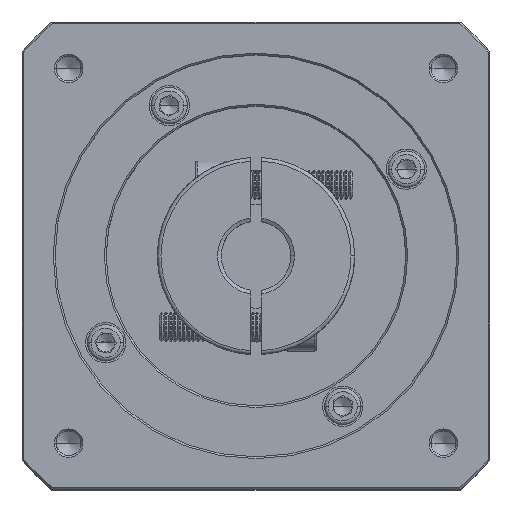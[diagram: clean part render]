
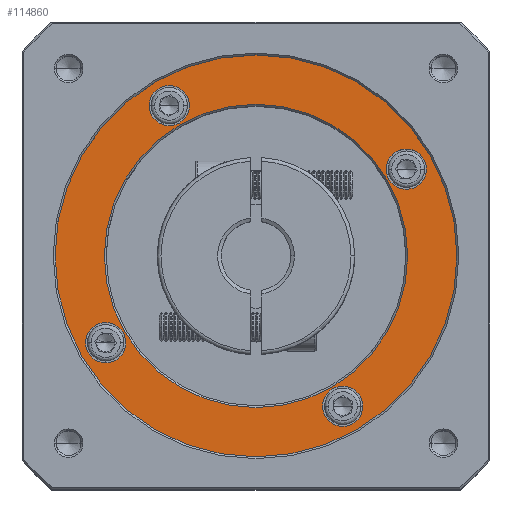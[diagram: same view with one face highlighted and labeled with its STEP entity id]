
A CAD part, top view. The second image highlights one B-rep face of the part: STEP entity #114860.
In plain terms, the highlighted planar face has unit normal (0, 0, 1).
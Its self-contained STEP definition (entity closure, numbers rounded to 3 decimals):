
#31 = DIRECTION ( 'NONE',  ( 1., 0., 0. ) ) ;
#1255 = DIRECTION ( 'NONE',  ( 1., 0., 0. ) ) ;
#1880 = DIRECTION ( 'NONE',  ( 0., 0., -1. ) ) ;
#1895 = CARTESIAN_POINT ( 'NONE',  ( 16.041, 119.998, 75.911 ) ) ;
#2095 = CARTESIAN_POINT ( 'NONE',  ( 80.927, 102.612, 75.911 ) ) ;
#3564 = AXIS2_PLACEMENT_3D ( 'NONE', #58340, #1880, #67802 ) ;
#4405 = ORIENTED_EDGE ( 'NONE', *, *, #41038, .T. ) ;
#8453 = DIRECTION ( 'NONE',  ( 1., 0., 0. ) ) ;
#8965 = DIRECTION ( 'NONE',  ( 0., -1., 0. ) ) ;
#9934 = EDGE_CURVE ( 'NONE', #119432, #26576, #87533, .T. ) ;
#10255 = CIRCLE ( 'NONE', #106787, 55. ) ;
#11267 = ORIENTED_EDGE ( 'NONE', *, *, #98155, .T. ) ;
#13526 = CARTESIAN_POINT ( 'NONE',  ( 62.677, 143.748, 75.911 ) ) ;
#13629 = EDGE_CURVE ( 'NONE', #74848, #62949, #53834, .T. ) ;
#14733 = DIRECTION ( 'NONE',  ( 0., 0., -1. ) ) ;
#18857 = AXIS2_PLACEMENT_3D ( 'NONE', #90424, #34009, #99886 ) ;
#21841 = EDGE_LOOP ( 'NONE', ( #4405, #82962 ) ) ;
#22440 = CARTESIAN_POINT ( 'NONE',  ( 103.813, 167.498, 75.911 ) ) ;
#22703 = CARTESIAN_POINT ( 'NONE',  ( 98.313, 167.498, 75.911 ) ) ;
#22954 = DIRECTION ( 'NONE',  ( 1., 0., 0. ) ) ;
#24617 = CARTESIAN_POINT ( 'NONE',  ( 62.677, 185.248, 75.911 ) ) ;
#24734 = CIRCLE ( 'NONE', #104761, 5.5 ) ;
#25134 = AXIS2_PLACEMENT_3D ( 'NONE', #71164, #14733, #80615 ) ;
#25703 = AXIS2_PLACEMENT_3D ( 'NONE', #103266, #46949, #112754 ) ;
#25887 = CARTESIAN_POINT ( 'NONE',  ( 7.677, 143.748, 75.911 ) ) ;
#26576 = VERTEX_POINT ( 'NONE', #47800 ) ;
#27645 = CARTESIAN_POINT ( 'NONE',  ( 38.927, 184.884, 75.911 ) ) ;
#28175 = AXIS2_PLACEMENT_3D ( 'NONE', #22440, #88299, #31890 ) ;
#28869 = FACE_BOUND ( 'NONE', #93594, .T. ) ;
#31625 = EDGE_CURVE ( 'NONE', #102160, #114661, #100436, .T. ) ;
#31823 = FACE_BOUND ( 'NONE', #42154, .T. ) ;
#31890 = DIRECTION ( 'NONE',  ( 1., 0., 0. ) ) ;
#34009 = DIRECTION ( 'NONE',  ( 0., 0., -1. ) ) ;
#34051 = CIRCLE ( 'NONE', #102569, 5.5 ) ;
#34807 = EDGE_CURVE ( 'NONE', #82398, #71030, #39914, .T. ) ;
#35436 = VERTEX_POINT ( 'NONE', #95228 ) ;
#37110 = DIRECTION ( 'NONE',  ( 1., 0., 0. ) ) ;
#38298 = ORIENTED_EDGE ( 'NONE', *, *, #44343, .T. ) ;
#38707 = ORIENTED_EDGE ( 'NONE', *, *, #9934, .T. ) ;
#39914 = CIRCLE ( 'NONE', #82279, 41.5 ) ;
#41038 = EDGE_CURVE ( 'NONE', #116917, #65890, #10255, .T. ) ;
#41364 = CARTESIAN_POINT ( 'NONE',  ( 117.677, 143.748, 75.911 ) ) ;
#42154 = EDGE_LOOP ( 'NONE', ( #82140, #82733 ) ) ;
#43006 = CARTESIAN_POINT ( 'NONE',  ( 62.677, 143.748, 75.911 ) ) ;
#44343 = EDGE_CURVE ( 'NONE', #114661, #102160, #24734, .T. ) ;
#46949 = DIRECTION ( 'NONE',  ( 0., 0., -1. ) ) ;
#47800 = CARTESIAN_POINT ( 'NONE',  ( 27.041, 119.998, 75.911 ) ) ;
#48659 = DIRECTION ( 'NONE',  ( 0., 0., -1. ) ) ;
#51150 = EDGE_LOOP ( 'NONE', ( #11267, #115229 ) ) ;
#52580 = DIRECTION ( 'NONE',  ( 1., 0., 0. ) ) ;
#53549 = EDGE_CURVE ( 'NONE', #71030, #82398, #57919, .T. ) ;
#53667 = CIRCLE ( 'NONE', #89741, 55. ) ;
#53834 = CIRCLE ( 'NONE', #18857, 5.5 ) ;
#54014 = FACE_BOUND ( 'NONE', #95184, .T. ) ;
#56509 = DIRECTION ( 'NONE',  ( 0., 0., -1. ) ) ;
#57707 = DIRECTION ( 'NONE',  ( 0., 0., -1. ) ) ;
#57709 = AXIS2_PLACEMENT_3D ( 'NONE', #121266, #64958, #8453 ) ;
#57919 = CIRCLE ( 'NONE', #3564, 41.5 ) ;
#58340 = CARTESIAN_POINT ( 'NONE',  ( 62.677, 143.748, 75.911 ) ) ;
#59883 = EDGE_LOOP ( 'NONE', ( #38298, #100114 ) ) ;
#60951 = EDGE_CURVE ( 'NONE', #65890, #116917, #53667, .T. ) ;
#61811 = CIRCLE ( 'NONE', #28175, 5.5 ) ;
#62758 = CIRCLE ( 'NONE', #69627, 5.5 ) ;
#62949 = VERTEX_POINT ( 'NONE', #108476 ) ;
#63655 = EDGE_CURVE ( 'NONE', #26576, #119432, #62758, .T. ) ;
#64958 = DIRECTION ( 'NONE',  ( 0., 0., 1. ) ) ;
#65474 = DIRECTION ( 'NONE',  ( 0., 0., -1. ) ) ;
#65890 = VERTEX_POINT ( 'NONE', #25887 ) ;
#67802 = DIRECTION ( 'NONE',  ( 0., -1., 0. ) ) ;
#69627 = AXIS2_PLACEMENT_3D ( 'NONE', #104935, #48659, #114431 ) ;
#71030 = VERTEX_POINT ( 'NONE', #24617 ) ;
#71164 = CARTESIAN_POINT ( 'NONE',  ( 86.427, 102.612, 75.911 ) ) ;
#71859 = EDGE_CURVE ( 'NONE', #62949, #74848, #98332, .T. ) ;
#74848 = VERTEX_POINT ( 'NONE', #97214 ) ;
#75170 = CARTESIAN_POINT ( 'NONE',  ( 62.677, 102.248, 75.911 ) ) ;
#79028 = FACE_BOUND ( 'NONE', #59883, .T. ) ;
#79392 = DIRECTION ( 'NONE',  ( 0., 0., 1. ) ) ;
#80615 = DIRECTION ( 'NONE',  ( 1., 0., 0. ) ) ;
#81450 = VERTEX_POINT ( 'NONE', #22703 ) ;
#81923 = FACE_OUTER_BOUND ( 'NONE', #21841, .T. ) ;
#82131 = CARTESIAN_POINT ( 'NONE',  ( 91.927, 102.612, 75.911 ) ) ;
#82140 = ORIENTED_EDGE ( 'NONE', *, *, #34807, .T. ) ;
#82279 = AXIS2_PLACEMENT_3D ( 'NONE', #121803, #65474, #8965 ) ;
#82398 = VERTEX_POINT ( 'NONE', #75170 ) ;
#82733 = ORIENTED_EDGE ( 'NONE', *, *, #53549, .T. ) ;
#82962 = ORIENTED_EDGE ( 'NONE', *, *, #60951, .T. ) ;
#83405 = PLANE ( 'NONE',  #57709 ) ;
#87533 = CIRCLE ( 'NONE', #25703, 5.5 ) ;
#88299 = DIRECTION ( 'NONE',  ( 0., 0., -1. ) ) ;
#89741 = AXIS2_PLACEMENT_3D ( 'NONE', #13526, #79392, #22954 ) ;
#90424 = CARTESIAN_POINT ( 'NONE',  ( 38.927, 184.884, 75.911 ) ) ;
#93469 = DIRECTION ( 'NONE',  ( 0., 0., -1. ) ) ;
#93594 = EDGE_LOOP ( 'NONE', ( #99108, #38707 ) ) ;
#95071 = EDGE_CURVE ( 'NONE', #81450, #35436, #34051, .T. ) ;
#95184 = EDGE_LOOP ( 'NONE', ( #117579, #102464 ) ) ;
#95228 = CARTESIAN_POINT ( 'NONE',  ( 109.313, 167.498, 75.911 ) ) ;
#97214 = CARTESIAN_POINT ( 'NONE',  ( 44.427, 184.884, 75.911 ) ) ;
#98155 = EDGE_CURVE ( 'NONE', #35436, #81450, #61811, .T. ) ;
#98332 = CIRCLE ( 'NONE', #100165, 5.5 ) ;
#99108 = ORIENTED_EDGE ( 'NONE', *, *, #63655, .T. ) ;
#99886 = DIRECTION ( 'NONE',  ( 1., 0., 0. ) ) ;
#100114 = ORIENTED_EDGE ( 'NONE', *, *, #31625, .T. ) ;
#100165 = AXIS2_PLACEMENT_3D ( 'NONE', #27645, #93469, #37110 ) ;
#100436 = CIRCLE ( 'NONE', #25134, 5.5 ) ;
#102160 = VERTEX_POINT ( 'NONE', #2095 ) ;
#102464 = ORIENTED_EDGE ( 'NONE', *, *, #71859, .T. ) ;
#102569 = AXIS2_PLACEMENT_3D ( 'NONE', #114036, #57707, #1255 ) ;
#103266 = CARTESIAN_POINT ( 'NONE',  ( 21.541, 119.998, 75.911 ) ) ;
#103940 = FACE_BOUND ( 'NONE', #51150, .T. ) ;
#104761 = AXIS2_PLACEMENT_3D ( 'NONE', #112810, #56509, #31 ) ;
#104935 = CARTESIAN_POINT ( 'NONE',  ( 21.541, 119.998, 75.911 ) ) ;
#106787 = AXIS2_PLACEMENT_3D ( 'NONE', #43006, #108852, #52580 ) ;
#108476 = CARTESIAN_POINT ( 'NONE',  ( 33.427, 184.884, 75.911 ) ) ;
#108852 = DIRECTION ( 'NONE',  ( 0., 0., 1. ) ) ;
#112754 = DIRECTION ( 'NONE',  ( 1., 0., 0. ) ) ;
#112810 = CARTESIAN_POINT ( 'NONE',  ( 86.427, 102.612, 75.911 ) ) ;
#114036 = CARTESIAN_POINT ( 'NONE',  ( 103.813, 167.498, 75.911 ) ) ;
#114431 = DIRECTION ( 'NONE',  ( 1., 0., 0. ) ) ;
#114661 = VERTEX_POINT ( 'NONE', #82131 ) ;
#114860 = ADVANCED_FACE ( 'NONE', ( #81923, #31823, #103940, #79028, #54014, #28869 ), #83405, .T. ) ;
#115229 = ORIENTED_EDGE ( 'NONE', *, *, #95071, .T. ) ;
#116917 = VERTEX_POINT ( 'NONE', #41364 ) ;
#117579 = ORIENTED_EDGE ( 'NONE', *, *, #13629, .T. ) ;
#119432 = VERTEX_POINT ( 'NONE', #1895 ) ;
#121266 = CARTESIAN_POINT ( 'NONE',  ( 62.677, 143.748, 75.911 ) ) ;
#121803 = CARTESIAN_POINT ( 'NONE',  ( 62.677, 143.748, 75.911 ) ) ;
